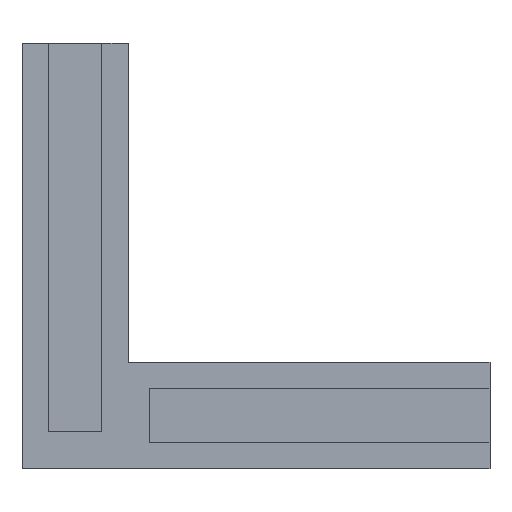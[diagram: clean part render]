
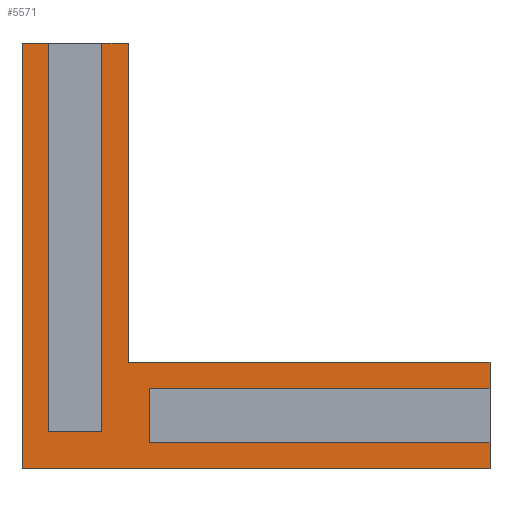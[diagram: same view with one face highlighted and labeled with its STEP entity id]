
A CAD part, top view. The second image highlights one B-rep face of the part: STEP entity #5571.
In plain terms, the highlighted planar face has unit normal (0, 0, 1).
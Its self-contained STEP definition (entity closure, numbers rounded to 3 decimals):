
#23 = CARTESIAN_POINT ( 'NONE',  ( 44., 7.5, 4. ) ) ;
#191 = LINE ( 'NONE', #9495, #8834 ) ;
#420 = ORIENTED_EDGE ( 'NONE', *, *, #7853, .T. ) ;
#456 = CARTESIAN_POINT ( 'NONE',  ( 7.5, 3.5, 4. ) ) ;
#488 = EDGE_CURVE ( 'NONE', #10300, #7311, #6699, .T. ) ;
#513 = EDGE_CURVE ( 'NONE', #6021, #621, #7764, .T. ) ;
#608 = DIRECTION ( 'NONE',  ( 0., 1., 0. ) ) ;
#621 = VERTEX_POINT ( 'NONE', #10087 ) ;
#664 = CARTESIAN_POINT ( 'NONE',  ( 2.5, 40., 4. ) ) ;
#799 = EDGE_CURVE ( 'NONE', #2031, #4888, #7564, .T. ) ;
#857 = ORIENTED_EDGE ( 'NONE', *, *, #7986, .F. ) ;
#946 = DIRECTION ( 'NONE',  ( 0., 1., 0. ) ) ;
#965 = ORIENTED_EDGE ( 'NONE', *, *, #1326, .T. ) ;
#970 = DIRECTION ( 'NONE',  ( 0., 0., -1. ) ) ;
#1097 = LINE ( 'NONE', #23, #9163 ) ;
#1129 = CARTESIAN_POINT ( 'NONE',  ( 12., 7.5, 4. ) ) ;
#1138 = DIRECTION ( 'NONE',  ( 1., 0., 0. ) ) ;
#1237 = VERTEX_POINT ( 'NONE', #7058 ) ;
#1275 = EDGE_CURVE ( 'NONE', #2031, #6751, #1722, .T. ) ;
#1326 = EDGE_CURVE ( 'NONE', #7311, #1237, #9319, .T. ) ;
#1357 = ORIENTED_EDGE ( 'NONE', *, *, #488, .T. ) ;
#1459 = EDGE_CURVE ( 'NONE', #6751, #7461, #8338, .T. ) ;
#1515 = EDGE_CURVE ( 'NONE', #2854, #7660, #9028, .T. ) ;
#1601 = VECTOR ( 'NONE', #7224, 1000. ) ;
#1665 = CARTESIAN_POINT ( 'NONE',  ( 7.5, 40., 4. ) ) ;
#1722 = LINE ( 'NONE', #664, #3052 ) ;
#2015 = CARTESIAN_POINT ( 'NONE',  ( 10., 40., 4. ) ) ;
#2020 = CARTESIAN_POINT ( 'NONE',  ( 44., 10., 4. ) ) ;
#2031 = VERTEX_POINT ( 'NONE', #7532 ) ;
#2035 = CARTESIAN_POINT ( 'NONE',  ( 0., 0., 4. ) ) ;
#2059 = ORIENTED_EDGE ( 'NONE', *, *, #5948, .T. ) ;
#2198 = CARTESIAN_POINT ( 'NONE',  ( 44., 2.5, 4. ) ) ;
#2426 = DIRECTION ( 'NONE',  ( -1., 0., 0. ) ) ;
#2665 = VECTOR ( 'NONE', #6213, 1000. ) ;
#2742 = LINE ( 'NONE', #1665, #8517 ) ;
#2831 = EDGE_CURVE ( 'NONE', #7461, #621, #2742, .T. ) ;
#2854 = VERTEX_POINT ( 'NONE', #8853 ) ;
#3052 = VECTOR ( 'NONE', #9965, 1000. ) ;
#3083 = LINE ( 'NONE', #2015, #5054 ) ;
#3102 = PLANE ( 'NONE',  #9974 ) ;
#3112 = CARTESIAN_POINT ( 'NONE',  ( 0., 40., 4. ) ) ;
#3219 = VECTOR ( 'NONE', #1138, 1000. ) ;
#3267 = LINE ( 'NONE', #2198, #3219 ) ;
#3468 = CARTESIAN_POINT ( 'NONE',  ( 44., 0., 4. ) ) ;
#3504 = CARTESIAN_POINT ( 'NONE',  ( 0., 40., 4. ) ) ;
#3861 = VECTOR ( 'NONE', #6156, 1000. ) ;
#4184 = ORIENTED_EDGE ( 'NONE', *, *, #8407, .F. ) ;
#4369 = DIRECTION ( 'NONE',  ( -1., 0., 0. ) ) ;
#4474 = CARTESIAN_POINT ( 'NONE',  ( 10., 40., 4. ) ) ;
#4535 = DIRECTION ( 'NONE',  ( 0., -1., 0. ) ) ;
#4546 = VECTOR ( 'NONE', #6924, 1000. ) ;
#4573 = DIRECTION ( 'NONE',  ( 0., 1., 0. ) ) ;
#4701 = ORIENTED_EDGE ( 'NONE', *, *, #1459, .F. ) ;
#4888 = VERTEX_POINT ( 'NONE', #3112 ) ;
#5054 = VECTOR ( 'NONE', #946, 1000. ) ;
#5140 = ORIENTED_EDGE ( 'NONE', *, *, #7634, .T. ) ;
#5262 = VERTEX_POINT ( 'NONE', #9096 ) ;
#5421 = CARTESIAN_POINT ( 'NONE',  ( 0., 40., 4. ) ) ;
#5571 = ADVANCED_FACE ( 'NONE', ( #8911 ), #3102, .F. ) ;
#5585 = CARTESIAN_POINT ( 'NONE',  ( 0., 0., 4. ) ) ;
#5620 = CARTESIAN_POINT ( 'NONE',  ( 44., 10., 4. ) ) ;
#5948 = EDGE_CURVE ( 'NONE', #1237, #6021, #3083, .T. ) ;
#6021 = VERTEX_POINT ( 'NONE', #4474 ) ;
#6156 = DIRECTION ( 'NONE',  ( -1., 0., 0. ) ) ;
#6157 = VECTOR ( 'NONE', #4573, 1000. ) ;
#6213 = DIRECTION ( 'NONE',  ( 1., 0., 0. ) ) ;
#6662 = LINE ( 'NONE', #5585, #9554 ) ;
#6699 = LINE ( 'NONE', #5620, #6157 ) ;
#6710 = EDGE_LOOP ( 'NONE', ( #7710, #1357, #965, #2059, #7846, #7950, #4701, #9990, #9722, #5140, #6841, #420, #857, #4184 ) ) ;
#6751 = VERTEX_POINT ( 'NONE', #7827 ) ;
#6820 = VERTEX_POINT ( 'NONE', #8379 ) ;
#6841 = ORIENTED_EDGE ( 'NONE', *, *, #1515, .T. ) ;
#6924 = DIRECTION ( 'NONE',  ( 1., 0., 0. ) ) ;
#6963 = VECTOR ( 'NONE', #2426, 1000. ) ;
#6983 = EDGE_CURVE ( 'NONE', #10300, #8917, #1097, .T. ) ;
#7058 = CARTESIAN_POINT ( 'NONE',  ( 10., 10., 4. ) ) ;
#7223 = CARTESIAN_POINT ( 'NONE',  ( 10., 10., 4. ) ) ;
#7224 = DIRECTION ( 'NONE',  ( 0., 1., 0. ) ) ;
#7281 = CARTESIAN_POINT ( 'NONE',  ( 2.5, 3.5, 4. ) ) ;
#7311 = VERTEX_POINT ( 'NONE', #2020 ) ;
#7461 = VERTEX_POINT ( 'NONE', #456 ) ;
#7472 = VECTOR ( 'NONE', #4369, 1000. ) ;
#7532 = CARTESIAN_POINT ( 'NONE',  ( 2.5, 40., 4. ) ) ;
#7564 = LINE ( 'NONE', #5421, #7472 ) ;
#7634 = EDGE_CURVE ( 'NONE', #4888, #2854, #6662, .T. ) ;
#7660 = VERTEX_POINT ( 'NONE', #3468 ) ;
#7710 = ORIENTED_EDGE ( 'NONE', *, *, #6983, .F. ) ;
#7764 = LINE ( 'NONE', #3504, #6963 ) ;
#7827 = CARTESIAN_POINT ( 'NONE',  ( 2.5, 3.5, 4. ) ) ;
#7846 = ORIENTED_EDGE ( 'NONE', *, *, #513, .T. ) ;
#7853 = EDGE_CURVE ( 'NONE', #7660, #5262, #9320, .T. ) ;
#7950 = ORIENTED_EDGE ( 'NONE', *, *, #2831, .F. ) ;
#7986 = EDGE_CURVE ( 'NONE', #6820, #5262, #3267, .T. ) ;
#7993 = CARTESIAN_POINT ( 'NONE',  ( 44., 0., 4. ) ) ;
#8283 = CARTESIAN_POINT ( 'NONE',  ( 44., 10., 4. ) ) ;
#8338 = LINE ( 'NONE', #7281, #2665 ) ;
#8379 = CARTESIAN_POINT ( 'NONE',  ( 12., 2.5, 4. ) ) ;
#8407 = EDGE_CURVE ( 'NONE', #8917, #6820, #191, .T. ) ;
#8462 = DIRECTION ( 'NONE',  ( 0., -1., 0. ) ) ;
#8517 = VECTOR ( 'NONE', #608, 1000. ) ;
#8834 = VECTOR ( 'NONE', #8462, 1000. ) ;
#8853 = CARTESIAN_POINT ( 'NONE',  ( 0., 0., 4. ) ) ;
#8911 = FACE_OUTER_BOUND ( 'NONE', #6710, .T. ) ;
#8917 = VERTEX_POINT ( 'NONE', #1129 ) ;
#9028 = LINE ( 'NONE', #7993, #4546 ) ;
#9096 = CARTESIAN_POINT ( 'NONE',  ( 44., 2.5, 4. ) ) ;
#9152 = CARTESIAN_POINT ( 'NONE',  ( 44., 7.5, 4. ) ) ;
#9163 = VECTOR ( 'NONE', #9334, 1000. ) ;
#9319 = LINE ( 'NONE', #7223, #3861 ) ;
#9320 = LINE ( 'NONE', #8283, #1601 ) ;
#9334 = DIRECTION ( 'NONE',  ( -1., 0., 0. ) ) ;
#9495 = CARTESIAN_POINT ( 'NONE',  ( 12., 7.5, 4. ) ) ;
#9554 = VECTOR ( 'NONE', #4535, 1000. ) ;
#9722 = ORIENTED_EDGE ( 'NONE', *, *, #799, .T. ) ;
#9965 = DIRECTION ( 'NONE',  ( 0., -1., 0. ) ) ;
#9974 = AXIS2_PLACEMENT_3D ( 'NONE', #2035, #970, #10266 ) ;
#9990 = ORIENTED_EDGE ( 'NONE', *, *, #1275, .F. ) ;
#10087 = CARTESIAN_POINT ( 'NONE',  ( 7.5, 40., 4. ) ) ;
#10266 = DIRECTION ( 'NONE',  ( -1., 0., 0. ) ) ;
#10300 = VERTEX_POINT ( 'NONE', #9152 ) ;
